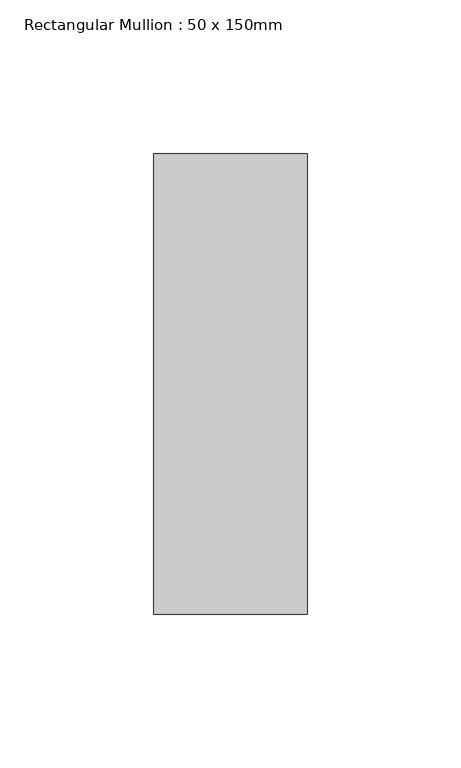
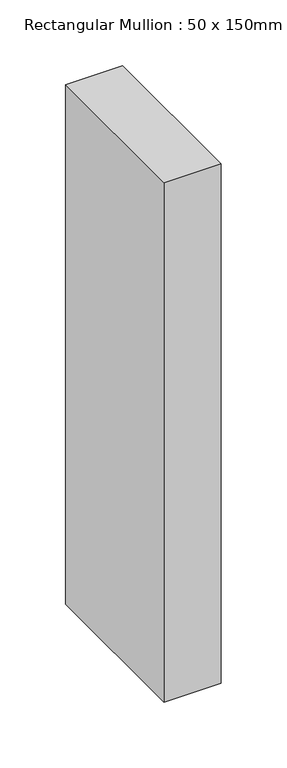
"""IFC4 building model written with IfcOpenShell, lengths in millimetres: member geometry, Rectangular Mullion : 50 x 150mm."""

from ifc_helpers import new_model, si_unit, frame, origin, place, context, project, spatial, polyline, outline, extrude, source, transform, mapped, element, save


def rectangular_mullion_50_x_150mm_777ece87(model_context):
    return source(origin(), model_context, "Body", "SweptSolid", [
        extrude(outline(polyline([(25.0, 75.0), (25.0, -75.0), (-25.0, -75.0), (-25.0, 75.0), (25.0, 75.0)])), frame((0.0, 0.0, -482.0833334), z_axis=(0.0, 0.0, 1.0), x_axis=(1.0, 0.0, 0.0)), (0.0, 0.0, 1.0), 482.0833334),
    ])


if __name__ == "__main__":
    model = new_model("IFC4")
    model_context = context("Model", 3, world=origin())
    ifc_project = project(units=[si_unit("LENGTHUNIT", "METRE", prefix="MILLI")], contexts=[model_context])
    site = spatial("IfcSite", under=ifc_project)
    building = spatial("IfcBuilding", under=site)
    placement = place(None, origin())
    rectangular_mullion_50_x_150mm_shape = rectangular_mullion_50_x_150mm_777ece87(model_context)
    element("IfcMember", 1, ObjectType="Rectangular Mullion : 50 x 150mm", at=placement, inside=building, context=model_context, shape_type="MappedRepresentation", body=[
        mapped(rectangular_mullion_50_x_150mm_shape, transform((0.0, 0.0, 0.0), x_axis=(1.0, 0.0, 0.0), y_axis=(0.0, 1.0, 0.0), z_axis=(0.0, 0.0, 1.0))),
    ])
    save(model, "model.ifc")
